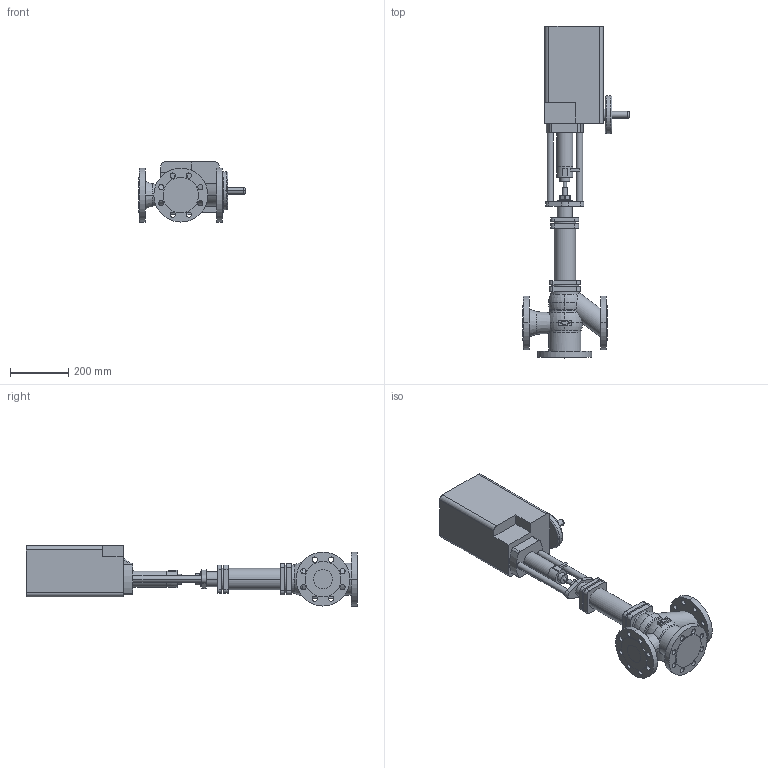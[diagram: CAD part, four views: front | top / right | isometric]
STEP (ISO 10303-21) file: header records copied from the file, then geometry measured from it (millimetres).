
FILE_DESCRIPTION(('OneSpaceDesigner STEP Export'),'2;1');
FILE_NAME('c000002474.stp','2006-09-21T12:01:41',(''),(''),'OneSpace Designer STEP processor for AP214 (Solid Model)','OneSpace Designer 13.20A 18-Aug-2005 (C) CoCreate Software GmbH','');
FILE_SCHEMA(('AUTOMOTIVE_DESIGN { 1 0 10303 214 1 1 1 1 }'));
Length unit declared in the file: millimetre
Products named in the file (2): 1; 2
Bounding box: 366.6 x 1138.5 x 206.5 mm (x, y, z)
Volume: 18748115.9 mm3; surface area: 862207.2 mm2
Topology: 2 solids, 2 shells, 277 faces, 703 edges, 465 vertices
Faces by surface type: cylinder 140, plane 106, torus 27, cone 4
Entity records: 7888 total; most frequent: CARTESIAN_POINT 1588, ORIENTED_EDGE 1406, DIRECTION 1165, EDGE_CURVE 703, VERTEX_POINT 465, AXIS2_PLACEMENT_3D 422, EDGE_LOOP 360, VECTOR 321
